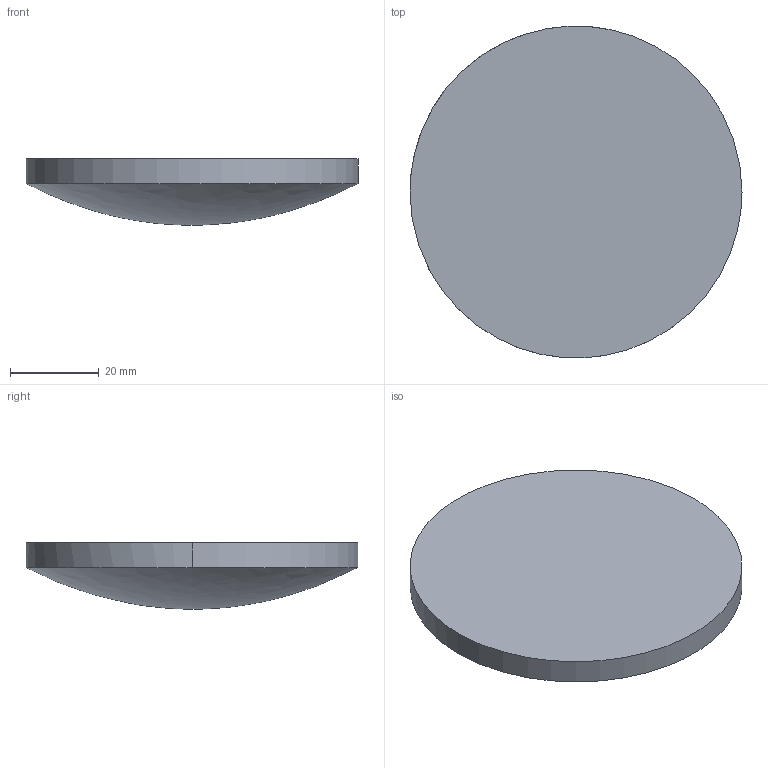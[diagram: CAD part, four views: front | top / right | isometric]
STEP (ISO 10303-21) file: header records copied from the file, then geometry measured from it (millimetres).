
FILE_DESCRIPTION ((), '1');
FILE_NAME ('\\fileserver\Daten\Applikationen\Optikdesign\SPA-Design\aktuelle SPA-Designs\Linsenkataloge - 2016-Juni\Zemax\ALL\ALL75-150.STP', '2016-05-24T14:21:42', ('Unknown'), ('Unknown'), 'HarmonyWare STEP v2.0.1', 'HarmonyWare Translators', '');
FILE_SCHEMA (('CONFIG_CONTROL_DESIGN'));
Length unit declared in the file: millimetre
Products named in the file (1): NONE
Bounding box: 75 x 74.96 x 15 mm (x, y, z)
Volume: 45711.4 mm3; surface area: 10429.8 mm2
Topology: 1 solids, 1 shells, 4 faces, 9 edges, 6 vertices
Faces by surface type: cylinder 2, bspline 1, plane 1
Entity records: 295 total; most frequent: CARTESIAN_POINT 144, ORIENTED_EDGE 16, EDGE_CURVE 8, PERSON 8, ORGANIZATION 8, PERSON_AND_ORGANIZATION 8, VERTEX_POINT 6, DIRECTION 6
